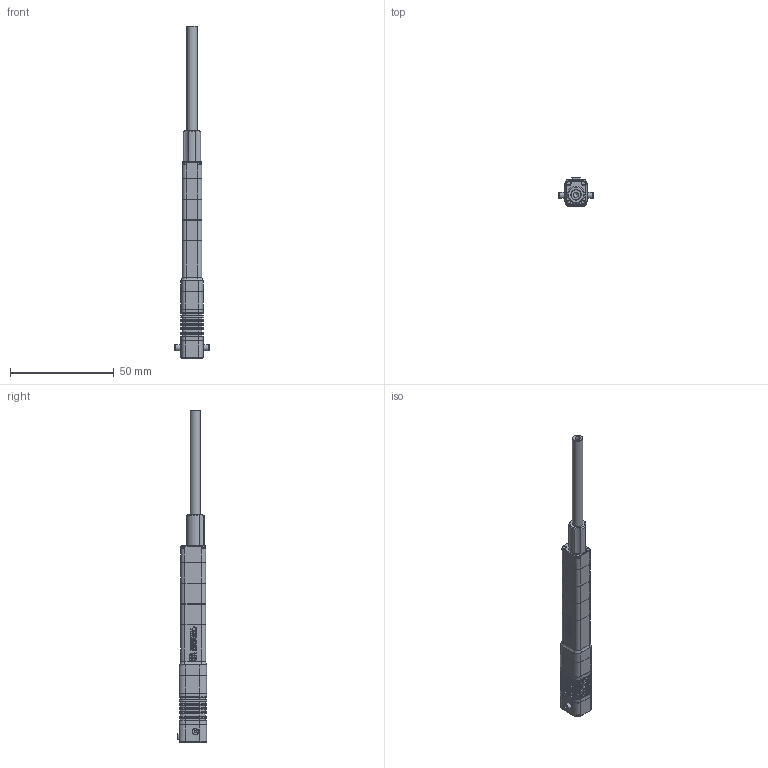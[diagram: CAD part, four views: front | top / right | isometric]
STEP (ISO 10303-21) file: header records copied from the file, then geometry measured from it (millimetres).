
FILE_DESCRIPTION (( 'STEP AP203' ), '1' );
FILE_NAME ('LA50-0x2D-1201.STEP', '2023-12-01T09:07:01', ( '' ), ( '' ), '' );
FILE_SCHEMA (( 'CONFIG_CONTROL_DESIGN' ));
Length unit declared in the file: millimetre
Products named in the file (3): LA50-0x2D-1201; 錨璃17^LA50-0x2D-俋楷; A820150-015芢裝-俋楷
Assembly tree (2 placements, depth 2):
  LA50-0x2D-1201
    A820150-015芢裝-俋楷
    錨璃17^LA50-0x2D-俋楷
Bounding box: 16.4 x 14 x 160 mm (x, y, z)
Volume: 12134.6 mm3; surface area: 7234.5 mm2
Topology: 2 solids, 2 shells, 1590 faces, 4081 edges, 2623 vertices
Faces by surface type: plane 869, bspline 556, cylinder 111, cone 50, torus 4
Full cylindrical faces by diameter (mm): 1.25 x2, 2.17 x5, 2.2 x4, 2.4 x1, 2.5 x1, 3 x2, 3.2 x2, 4 x1, 5 x2
Entity records: 60643 total; most frequent: CARTESIAN_POINT 25695, ORIENTED_EDGE 8086, DIRECTION 5280, EDGE_CURVE 4043, LINE 2656, VECTOR 2656, VERTEX_POINT 2611, EDGE_LOOP 1744
